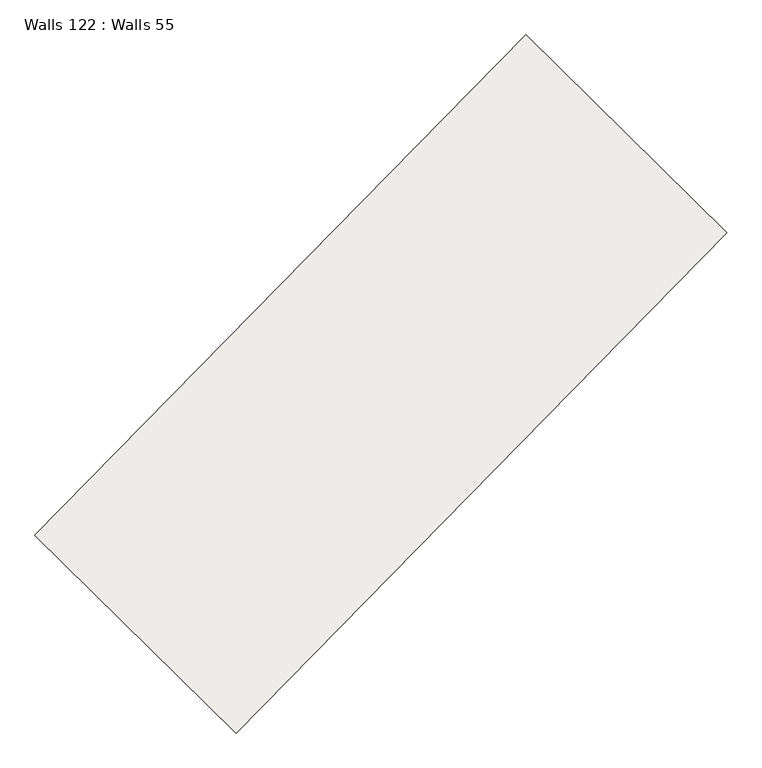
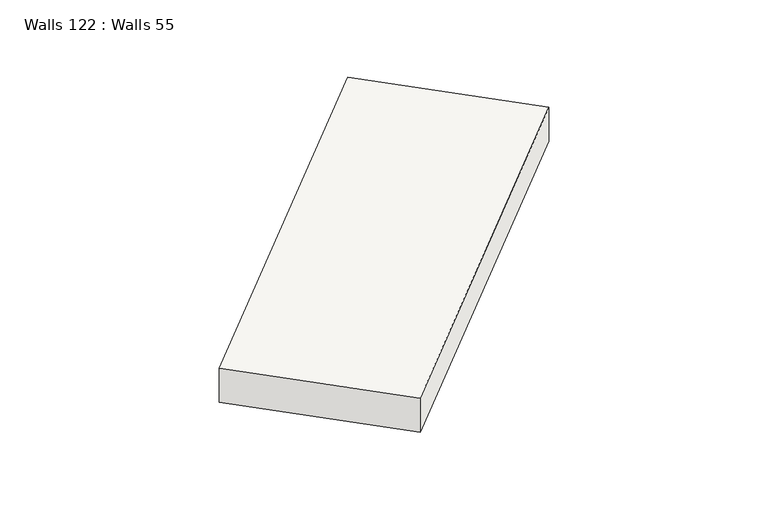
"""IFC4 building model written with IfcOpenShell, lengths in millimetres: slab geometry, Walls 122 : Walls 55."""

from ifc_helpers import new_model, si_unit, frame, origin, place, context, project, spatial, polyline, outline, extrude, source, transform, mapped, element, save


def walls_122_walls_55_22f4e96e(model_context):
    return source(origin(), model_context, "Body", "SweptSolid", [
        extrude(outline(polyline([(-350.0, 0.0), (350.0, 0.0), (260.0, -8700.0000009), (-440.0, -8700.0000009), (-350.0, 0.0)])), frame((-48770.4265583, -208900.1448821, 637740.0), z_axis=(-0.7137361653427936, 0.7004146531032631, 0.0), x_axis=(0.0, 0.0, 1.0)), (0.0, 0.0, 1.0), 3499.999995),
    ])


if __name__ == "__main__":
    model = new_model("IFC4")
    model_context = context("Model", 3, world=origin())
    ifc_project = project(units=[si_unit("LENGTHUNIT", "METRE", prefix="MILLI")], contexts=[model_context])
    site = spatial("IfcSite", under=ifc_project)
    building = spatial("IfcBuilding", under=site)
    placement = place(None, origin())
    walls_122_walls_55_shape = walls_122_walls_55_22f4e96e(model_context)
    element("IfcSlab", 1, ObjectType="Walls 122 : Walls 55", at=placement, inside=building, context=model_context, shape_type="MappedRepresentation", body=[
        mapped(walls_122_walls_55_shape, transform((0.0, 0.0, 0.0), x_axis=(1.0, 0.0, 0.0), y_axis=(0.0, 1.0, 0.0), z_axis=(0.0, 0.0, 1.0))),
    ])
    save(model, "model.ifc")
